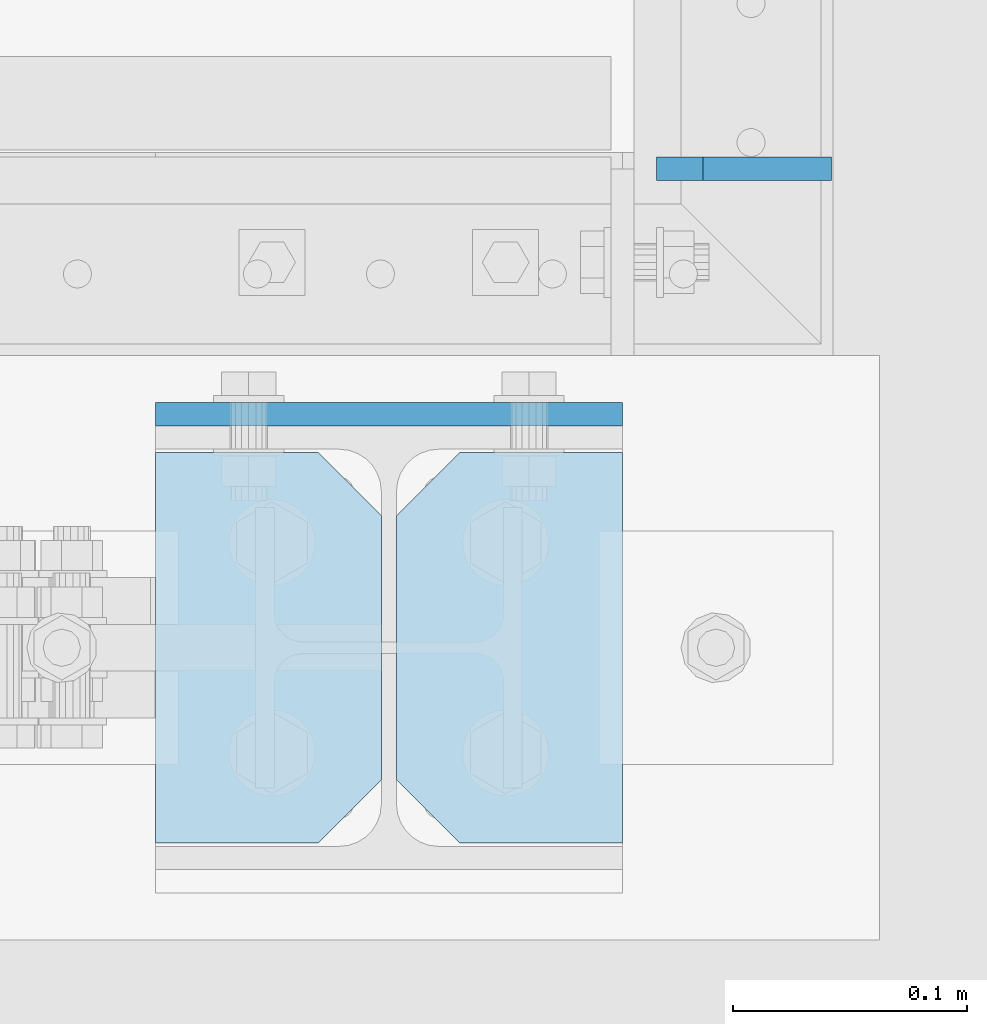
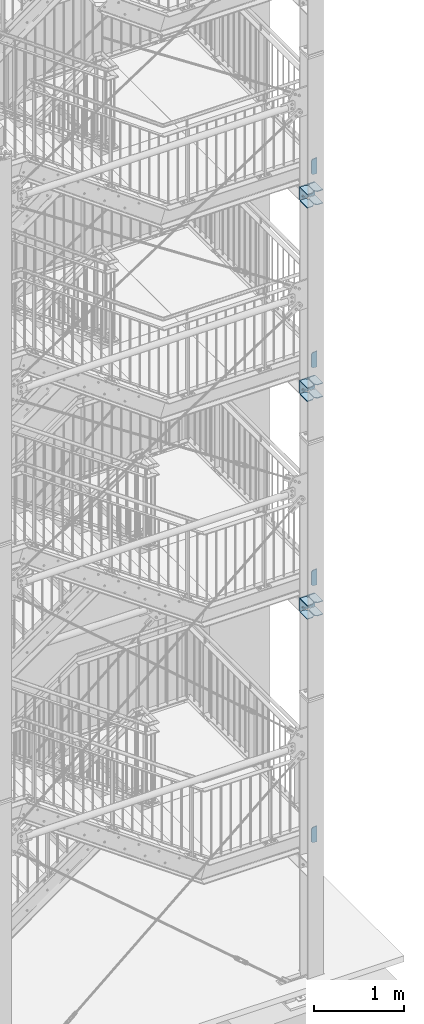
# One storey, part 202 of 831: 19 plates, 56 openings.
"""IFC2X3 building model written with IfcOpenShell, lengths in millimetres."""

from ifc_helpers import new_model, entity, si_unit, converted_unit, frame, origin, origin_with_axes, origin_2d_with_axis, place, context, project, spatial, polyline, circle, outline, extrude, material, layer, layer_set, element, save


model = new_model("IFC2X3")

# Units and contexts
model_context = context("Model", 3, precision=1e-09, world=origin_with_axes())
ifc_project = project(units=[si_unit("LENGTHUNIT", "METRE", prefix="MILLI"), si_unit("AREAUNIT", "SQUARE_METRE"), si_unit("VOLUMEUNIT", "CUBIC_METRE"), converted_unit("PLANEANGLEUNIT", "DEGREE", entity("IfcPlaneAngleMeasure", 0.01745329), si_unit("PLANEANGLEUNIT", "RADIAN"), dimensions=[0, 0, 0, 0, 0, 0, 0])], contexts=[model_context])

# Site, building, storey
site_placement = place(None, origin_with_axes())
site = spatial("IfcSite", under=ifc_project, at=site_placement, Name="Site", CompositionType="ELEMENT")
building_placement = place(site_placement, origin_with_axes())
building = spatial("IfcBuilding", under=site, at=building_placement, Name="Struktur 1", CompositionType="ELEMENT")
storey_placement = place(building_placement, origin_with_axes())
storey = spatial("IfcBuildingStorey", under=building, at=storey_placement, Name="Default Storey", CompositionType="ELEMENT", Elevation=0.0)

# Plate, openings
ifc_material = material(Name="S235JR")
ifc_layer = layer(ifc_material, 10.0)
ifc_layer_set = layer_set([ifc_layer], Name="S235JR")
plate_1_placement = place(None, frame((8866.713402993, 4471.736971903, 10930.5000003), z_axis=(0.0, -1.0, 0.0), x_axis=(0.0, 0.0, -1.0)))
plate_1 = element("IfcPlate", 1, at=plate_1_placement, inside=storey, material=ifc_layer_set, Name="Endplate", ObjectType="Endplate", context=model_context, shape_type="SweptSolid", body=[
    extrude(outline(polyline([(-90.0, -100.0), (90.0, -100.0), (90.0, 100.0), (-90.0, 100.0), (-90.0, -100.0)])), origin_with_axes(), (0.0, 0.0, 1.0), 10.0),
])
opening_1_placement = place(plate_1_placement, frame((-67.0, -21.25, 10.5), z_axis=(0.0, 0.0, -1.0), x_axis=(1.0, 0.0, 0.0)))
element("IfcOpeningElement", 2, at=opening_1_placement, cuts=plate_1, ObjectType="Opening", context=model_context, shape_type="SweptSolid", body=[
    extrude(circle(Radius=6.001, at=origin_2d_with_axis()), origin(), (0.0, 0.0, 1.0), 11.0),
])
opening_2_placement = place(plate_1_placement, frame((67.0, -21.25, 10.5), z_axis=(0.0, 0.0, -1.0), x_axis=(1.0, 0.0, 0.0)))
element("IfcOpeningElement", 3, at=opening_2_placement, cuts=plate_1, ObjectType="Opening", context=model_context, shape_type="SweptSolid", body=[
    extrude(circle(Radius=6.001, at=origin_2d_with_axis()), origin(), (0.0, 0.0, 1.0), 11.0),
])
opening_3_placement = place(plate_1_placement, frame((67.0, 21.25, 10.5), z_axis=(0.0, 0.0, -1.0), x_axis=(1.0, 0.0, 0.0)))
element("IfcOpeningElement", 4, at=opening_3_placement, cuts=plate_1, ObjectType="Opening", context=model_context, shape_type="SweptSolid", body=[
    extrude(circle(Radius=6.001, at=origin_2d_with_axis()), origin(), (0.0, 0.0, 1.0), 11.0),
])
opening_4_placement = place(plate_1_placement, frame((-67.0, 21.25, 10.5), z_axis=(0.0, 0.0, -1.0), x_axis=(1.0, 0.0, 0.0)))
element("IfcOpeningElement", 5, at=opening_4_placement, cuts=plate_1, ObjectType="Opening", context=model_context, shape_type="SweptSolid", body=[
    extrude(circle(Radius=6.001, at=origin_2d_with_axis()), origin(), (0.0, 0.0, 1.0), 11.0),
])
opening_5_placement = place(plate_1_placement, frame((-45.0, 60.0, 10.5), z_axis=(0.0, 0.0, -1.0), x_axis=(0.0, 1.0, 0.0)))
element("IfcOpeningElement", 6, at=opening_5_placement, cuts=plate_1, ObjectType="Opening", context=model_context, shape_type="SweptSolid", body=[
    extrude(circle(Radius=9.001, at=origin_2d_with_axis()), origin(), (0.0, 0.0, 1.0), 11.0),
])
opening_6_placement = place(plate_1_placement, frame((45.0, -60.0, 10.5), z_axis=(0.0, 0.0, -1.0), x_axis=(0.0, -1.0, 0.0)))
element("IfcOpeningElement", 7, at=opening_6_placement, cuts=plate_1, ObjectType="Opening", context=model_context, shape_type="SweptSolid", body=[
    extrude(circle(Radius=9.001, at=origin_2d_with_axis()), origin(), (0.0, 0.0, 1.0), 11.0),
])
opening_7_placement = place(plate_1_placement, frame((45.0, 60.0, 10.5), z_axis=(0.0, 0.0, -1.0), x_axis=(0.0, 1.0, 0.0)))
element("IfcOpeningElement", 8, at=opening_7_placement, cuts=plate_1, ObjectType="Opening", context=model_context, shape_type="SweptSolid", body=[
    extrude(circle(Radius=9.001, at=origin_2d_with_axis()), origin(), (0.0, 0.0, 1.0), 11.0),
])
opening_8_placement = place(plate_1_placement, frame((-45.0, -60.0, 10.5), z_axis=(0.0, 0.0, -1.0), x_axis=(0.0, -1.0, 0.0)))
element("IfcOpeningElement", 9, at=opening_8_placement, cuts=plate_1, ObjectType="Opening", context=model_context, shape_type="SweptSolid", body=[
    extrude(circle(Radius=9.001, at=origin_2d_with_axis()), origin(), (0.0, 0.0, 1.0), 11.0),
])

plate_2_placement = place(None, frame((8863.463402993, 4450.236971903, 11015.5000003), z_axis=(0.0, 0.0, 1.0), x_axis=(-1.0, 0.0, 0.0)))
plate_2 = element("IfcPlate", 10, at=plate_2_placement, inside=storey, material=ifc_layer_set, Name="Stiffener#1", ObjectType="Stiffener#1", context=model_context, shape_type="SweptSolid", body=[
    extrude(outline(polyline([(0.0, 0.0), (96.75, 0.0), (96.75, 167.0), (0.0, 167.0), (0.0, 0.0)])), origin_with_axes(), (0.0, 0.0, 1.0), 10.0),
])
opening_9_placement = place(plate_2_placement, frame((0.0, 0.0, -0.01), z_axis=(0.0, 0.0, 1.0), x_axis=(1.0, 0.0, 0.0)))
element("IfcOpeningElement", 11, at=opening_9_placement, cuts=plate_2, ObjectType="Opening", context=model_context, shape_type="SweptSolid", body=[
    extrude(outline(polyline([(0.0, 167.0), (0.0, 140.0), (27.0, 167.0), (0.0, 167.0)])), origin(), (0.0, 0.0, 1.0), 10.02),
])
opening_10_placement = place(plate_2_placement, frame((0.0, 0.0, -0.01), z_axis=(0.0, 0.0, 1.0), x_axis=(1.0, 0.0, 0.0)))
element("IfcOpeningElement", 12, at=opening_10_placement, cuts=plate_2, ObjectType="Opening", context=model_context, shape_type="SweptSolid", body=[
    extrude(outline(polyline([(0.0, 0.0), (27.0, 0.0), (0.0, 27.0), (0.0, 0.0)])), origin(), (0.0, 0.0, 1.0), 10.02),
])

plate_3_placement = place(None, frame((8966.713402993, 4450.236971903, 11015.5000003), z_axis=(0.0, 0.0, 1.0), x_axis=(-1.0, 0.0, 0.0)))
plate_3 = element("IfcPlate", 13, at=plate_3_placement, inside=storey, material=ifc_layer_set, Name="Stiffener#2", ObjectType="Stiffener#2", context=model_context, shape_type="SweptSolid", body=[
    extrude(outline(polyline([(0.0, 0.0), (96.75, 0.0), (96.75, 167.0), (0.0, 167.0), (0.0, 0.0)])), origin_with_axes(), (0.0, 0.0, 1.0), 10.0),
])
opening_11_placement = place(plate_3_placement, frame((0.0, 0.0, -0.01), z_axis=(0.0, 0.0, 1.0), x_axis=(1.0, 0.0, 0.0)))
element("IfcOpeningElement", 14, at=opening_11_placement, cuts=plate_3, ObjectType="Opening", context=model_context, shape_type="SweptSolid", body=[
    extrude(outline(polyline([(96.75, 167.0), (69.75, 167.0), (96.75, 140.0), (96.75, 167.0)])), origin(), (0.0, 0.0, 1.0), 10.02),
])
opening_12_placement = place(plate_3_placement, frame((0.0, 0.0, -0.01), z_axis=(0.0, 0.0, 1.0), x_axis=(1.0, 0.0, 0.0)))
element("IfcOpeningElement", 15, at=opening_12_placement, cuts=plate_3, ObjectType="Opening", context=model_context, shape_type="SweptSolid", body=[
    extrude(outline(polyline([(96.75, 0.0), (96.75, 27.0), (69.75, 0.0), (96.75, 0.0)])), origin(), (0.0, 0.0, 1.0), 10.02),
])

plate_4_placement = place(None, frame((8766.713402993, 4450.236971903, 10845.5000003), z_axis=(0.0, 0.0, -1.0), x_axis=(1.0, 0.0, 0.0)))
plate_4 = element("IfcPlate", 16, at=plate_4_placement, inside=storey, material=ifc_layer_set, Name="Stiffener#3", ObjectType="Stiffener#3", context=model_context, shape_type="SweptSolid", body=[
    extrude(outline(polyline([(0.0, 0.0), (96.75, 0.0), (96.75, 167.0), (0.0, 167.0), (0.0, 0.0)])), origin_with_axes(), (0.0, 0.0, 1.0), 10.0),
])
opening_13_placement = place(plate_4_placement, frame((0.0, 0.0, -0.01), z_axis=(0.0, 0.0, 1.0), x_axis=(1.0, 0.0, 0.0)))
element("IfcOpeningElement", 17, at=opening_13_placement, cuts=plate_4, ObjectType="Opening", context=model_context, shape_type="SweptSolid", body=[
    extrude(outline(polyline([(96.75, 167.0), (69.75, 167.0), (96.75, 140.0), (96.75, 167.0)])), origin(), (0.0, 0.0, 1.0), 10.02),
])
opening_14_placement = place(plate_4_placement, frame((0.0, 0.0, -0.01), z_axis=(0.0, 0.0, 1.0), x_axis=(1.0, 0.0, 0.0)))
element("IfcOpeningElement", 18, at=opening_14_placement, cuts=plate_4, ObjectType="Opening", context=model_context, shape_type="SweptSolid", body=[
    extrude(outline(polyline([(96.75, 0.0), (96.75, 27.0), (69.75, 0.0), (96.75, 0.0)])), origin(), (0.0, 0.0, 1.0), 10.02),
])

plate_5_placement = place(None, frame((8869.963402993, 4450.236971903, 10845.5000003), z_axis=(0.0, 0.0, -1.0), x_axis=(1.0, 0.0, 0.0)))
plate_5 = element("IfcPlate", 19, at=plate_5_placement, inside=storey, material=ifc_layer_set, Name="Stiffener#4", ObjectType="Stiffener#4", context=model_context, shape_type="SweptSolid", body=[
    extrude(outline(polyline([(0.0, 0.0), (96.75, 0.0), (96.75, 167.0), (0.0, 167.0), (0.0, 0.0)])), origin_with_axes(), (0.0, 0.0, 1.0), 10.0),
])
opening_15_placement = place(plate_5_placement, frame((0.0, 0.0, -0.01), z_axis=(0.0, 0.0, 1.0), x_axis=(1.0, 0.0, 0.0)))
element("IfcOpeningElement", 20, at=opening_15_placement, cuts=plate_5, ObjectType="Opening", context=model_context, shape_type="SweptSolid", body=[
    extrude(outline(polyline([(0.0, 167.0), (0.0, 140.0), (27.0, 167.0), (0.0, 167.0)])), origin(), (0.0, 0.0, 1.0), 10.02),
])
opening_16_placement = place(plate_5_placement, frame((0.0, 0.0, -0.01), z_axis=(0.0, 0.0, 1.0), x_axis=(1.0, 0.0, 0.0)))
element("IfcOpeningElement", 21, at=opening_16_placement, cuts=plate_5, ObjectType="Opening", context=model_context, shape_type="SweptSolid", body=[
    extrude(outline(polyline([(0.0, 0.0), (27.0, 0.0), (0.0, 27.0), (0.0, 0.0)])), origin(), (0.0, 0.0, 1.0), 10.02),
])

plate_6_placement = place(None, frame((8981.213402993, 4566.736971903, 11248.355162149), z_axis=(0.0, 1.0, 0.0), x_axis=(0.996815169, 0.0, 0.079746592)))
plate_6 = element("IfcPlate", 22, at=plate_6_placement, inside=storey, material=ifc_layer_set, Name="Stiffener#1", ObjectType="Stiffener#1", context=model_context, shape_type="SweptSolid", body=[
    extrude(outline(polyline([(0.0, 0.0), (75.239625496, 0.0), (57.877952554, 217.017159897), (-16.404697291, 205.05517107), (0.0, 0.0)])), origin_with_axes(), (0.0, 0.0, 1.0), 10.0),
])
opening_17_placement = place(plate_6_placement, frame((0.0, 0.0, -0.01), z_axis=(0.0, 0.0, 1.0), x_axis=(1.0, 0.0, 0.0)))
element("IfcOpeningElement", 23, at=opening_17_placement, cuts=plate_6, ObjectType="Opening", context=model_context, shape_type="SweptSolid", body=[
    extrude(outline(polyline([(-16.404697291, 205.05517107), (-14.809765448, 185.118867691), (3.34092195, 208.23487558), (-16.404697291, 205.05517107)])), origin(), (0.0, 0.0, 1.0), 10.02),
])
opening_18_placement = place(plate_6_placement, frame((0.0, 0.0, -0.01), z_axis=(0.0, 0.0, 1.0), x_axis=(1.0, 0.0, 0.0)))
element("IfcOpeningElement", 24, at=opening_18_placement, cuts=plate_6, ObjectType="Opening", context=model_context, shape_type="SweptSolid", body=[
    extrude(outline(polyline([(0.0, 0.0), (20.0, 0.0), (-1.594931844, 19.936303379), (0.0, 0.0)])), origin(), (0.0, 0.0, 1.0), 10.02),
])

plate_7_placement = place(None, frame((8866.713402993, 4471.736971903, 8301.0), z_axis=(0.0, -1.0, 0.0), x_axis=(0.0, 0.0, -1.0)))
plate_7 = element("IfcPlate", 25, at=plate_7_placement, inside=storey, material=ifc_layer_set, Name="Endplate", ObjectType="Endplate", context=model_context, shape_type="SweptSolid", body=[
    extrude(outline(polyline([(-90.0, -100.0), (90.0, -100.0), (90.0, 100.0), (-90.0, 100.0), (-90.0, -100.0)])), origin_with_axes(), (0.0, 0.0, 1.0), 10.0),
])
opening_19_placement = place(plate_7_placement, frame((-67.0, -21.25, 10.5), z_axis=(0.0, 0.0, -1.0), x_axis=(1.0, 0.0, 0.0)))
element("IfcOpeningElement", 26, at=opening_19_placement, cuts=plate_7, ObjectType="Opening", context=model_context, shape_type="SweptSolid", body=[
    extrude(circle(Radius=6.001, at=origin_2d_with_axis()), origin(), (0.0, 0.0, 1.0), 11.0),
])
opening_20_placement = place(plate_7_placement, frame((67.0, -21.25, 10.5), z_axis=(0.0, 0.0, -1.0), x_axis=(1.0, 0.0, 0.0)))
element("IfcOpeningElement", 27, at=opening_20_placement, cuts=plate_7, ObjectType="Opening", context=model_context, shape_type="SweptSolid", body=[
    extrude(circle(Radius=6.001, at=origin_2d_with_axis()), origin(), (0.0, 0.0, 1.0), 11.0),
])
opening_21_placement = place(plate_7_placement, frame((67.0, 21.25, 10.5), z_axis=(0.0, 0.0, -1.0), x_axis=(1.0, 0.0, 0.0)))
element("IfcOpeningElement", 28, at=opening_21_placement, cuts=plate_7, ObjectType="Opening", context=model_context, shape_type="SweptSolid", body=[
    extrude(circle(Radius=6.001, at=origin_2d_with_axis()), origin(), (0.0, 0.0, 1.0), 11.0),
])
opening_22_placement = place(plate_7_placement, frame((-67.0, 21.25, 10.5), z_axis=(0.0, 0.0, -1.0), x_axis=(1.0, 0.0, 0.0)))
element("IfcOpeningElement", 29, at=opening_22_placement, cuts=plate_7, ObjectType="Opening", context=model_context, shape_type="SweptSolid", body=[
    extrude(circle(Radius=6.001, at=origin_2d_with_axis()), origin(), (0.0, 0.0, 1.0), 11.0),
])
opening_23_placement = place(plate_7_placement, frame((-45.0, 60.0, 10.5), z_axis=(0.0, 0.0, -1.0), x_axis=(0.0, 1.0, 0.0)))
element("IfcOpeningElement", 30, at=opening_23_placement, cuts=plate_7, ObjectType="Opening", context=model_context, shape_type="SweptSolid", body=[
    extrude(circle(Radius=9.001, at=origin_2d_with_axis()), origin(), (0.0, 0.0, 1.0), 11.0),
])
opening_24_placement = place(plate_7_placement, frame((45.0, -60.0, 10.5), z_axis=(0.0, 0.0, -1.0), x_axis=(0.0, -1.0, 0.0)))
element("IfcOpeningElement", 31, at=opening_24_placement, cuts=plate_7, ObjectType="Opening", context=model_context, shape_type="SweptSolid", body=[
    extrude(circle(Radius=9.001, at=origin_2d_with_axis()), origin(), (0.0, 0.0, 1.0), 11.0),
])
opening_25_placement = place(plate_7_placement, frame((-45.0, -60.0, 10.5), z_axis=(0.0, 0.0, -1.0), x_axis=(0.0, -1.0, 0.0)))
element("IfcOpeningElement", 32, at=opening_25_placement, cuts=plate_7, ObjectType="Opening", context=model_context, shape_type="SweptSolid", body=[
    extrude(circle(Radius=9.001, at=origin_2d_with_axis()), origin(), (0.0, 0.0, 1.0), 11.0),
])
opening_26_placement = place(plate_7_placement, frame((45.0, 60.0, 10.5), z_axis=(0.0, 0.0, -1.0), x_axis=(0.0, 1.0, 0.0)))
element("IfcOpeningElement", 33, at=opening_26_placement, cuts=plate_7, ObjectType="Opening", context=model_context, shape_type="SweptSolid", body=[
    extrude(circle(Radius=9.001, at=origin_2d_with_axis()), origin(), (0.0, 0.0, 1.0), 11.0),
])

plate_8_placement = place(None, frame((8863.463402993, 4450.236971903, 8386.0), z_axis=(0.0, 0.0, 1.0), x_axis=(-1.0, 0.0, 0.0)))
plate_8 = element("IfcPlate", 34, at=plate_8_placement, inside=storey, material=ifc_layer_set, Name="Stiffener#1", ObjectType="Stiffener#1", context=model_context, shape_type="SweptSolid", body=[
    extrude(outline(polyline([(0.0, 0.0), (96.75, 0.0), (96.75, 167.0), (0.0, 167.0), (0.0, 0.0)])), origin_with_axes(), (0.0, 0.0, 1.0), 10.0),
])
opening_27_placement = place(plate_8_placement, frame((0.0, 0.0, -0.01), z_axis=(0.0, 0.0, 1.0), x_axis=(1.0, 0.0, 0.0)))
element("IfcOpeningElement", 35, at=opening_27_placement, cuts=plate_8, ObjectType="Opening", context=model_context, shape_type="SweptSolid", body=[
    extrude(outline(polyline([(0.0, 167.0), (0.0, 140.0), (27.0, 167.0), (0.0, 167.0)])), origin(), (0.0, 0.0, 1.0), 10.02),
])
opening_28_placement = place(plate_8_placement, frame((0.0, 0.0, -0.01), z_axis=(0.0, 0.0, 1.0), x_axis=(1.0, 0.0, 0.0)))
element("IfcOpeningElement", 36, at=opening_28_placement, cuts=plate_8, ObjectType="Opening", context=model_context, shape_type="SweptSolid", body=[
    extrude(outline(polyline([(0.0, 0.0), (27.0, 0.0), (0.0, 27.0), (0.0, 0.0)])), origin(), (0.0, 0.0, 1.0), 10.02),
])

plate_9_placement = place(None, frame((8966.713402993, 4450.236971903, 8386.0), z_axis=(0.0, 0.0, 1.0), x_axis=(-1.0, 0.0, 0.0)))
plate_9 = element("IfcPlate", 37, at=plate_9_placement, inside=storey, material=ifc_layer_set, Name="Stiffener#2", ObjectType="Stiffener#2", context=model_context, shape_type="SweptSolid", body=[
    extrude(outline(polyline([(0.0, 0.0), (96.75, 0.0), (96.75, 167.0), (0.0, 167.0), (0.0, 0.0)])), origin_with_axes(), (0.0, 0.0, 1.0), 10.0),
])
opening_29_placement = place(plate_9_placement, frame((0.0, 0.0, -0.01), z_axis=(0.0, 0.0, 1.0), x_axis=(1.0, 0.0, 0.0)))
element("IfcOpeningElement", 38, at=opening_29_placement, cuts=plate_9, ObjectType="Opening", context=model_context, shape_type="SweptSolid", body=[
    extrude(outline(polyline([(96.75, 167.0), (69.75, 167.0), (96.75, 140.0), (96.75, 167.0)])), origin(), (0.0, 0.0, 1.0), 10.02),
])
opening_30_placement = place(plate_9_placement, frame((0.0, 0.0, -0.01), z_axis=(0.0, 0.0, 1.0), x_axis=(1.0, 0.0, 0.0)))
element("IfcOpeningElement", 39, at=opening_30_placement, cuts=plate_9, ObjectType="Opening", context=model_context, shape_type="SweptSolid", body=[
    extrude(outline(polyline([(96.75, 0.0), (96.75, 27.0), (69.75, 0.0), (96.75, 0.0)])), origin(), (0.0, 0.0, 1.0), 10.02),
])

plate_10_placement = place(None, frame((8766.713402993, 4450.236971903, 8216.0), z_axis=(0.0, 0.0, -1.0), x_axis=(1.0, 0.0, 0.0)))
plate_10 = element("IfcPlate", 40, at=plate_10_placement, inside=storey, material=ifc_layer_set, Name="Stiffener#3", ObjectType="Stiffener#3", context=model_context, shape_type="SweptSolid", body=[
    extrude(outline(polyline([(0.0, 0.0), (96.75, 0.0), (96.75, 167.0), (0.0, 167.0), (0.0, 0.0)])), origin_with_axes(), (0.0, 0.0, 1.0), 10.0),
])
opening_31_placement = place(plate_10_placement, frame((0.0, 0.0, -0.01), z_axis=(0.0, 0.0, 1.0), x_axis=(1.0, 0.0, 0.0)))
element("IfcOpeningElement", 41, at=opening_31_placement, cuts=plate_10, ObjectType="Opening", context=model_context, shape_type="SweptSolid", body=[
    extrude(outline(polyline([(96.75, 167.0), (69.75, 167.0), (96.75, 140.0), (96.75, 167.0)])), origin(), (0.0, 0.0, 1.0), 10.02),
])
opening_32_placement = place(plate_10_placement, frame((0.0, 0.0, -0.01), z_axis=(0.0, 0.0, 1.0), x_axis=(1.0, 0.0, 0.0)))
element("IfcOpeningElement", 42, at=opening_32_placement, cuts=plate_10, ObjectType="Opening", context=model_context, shape_type="SweptSolid", body=[
    extrude(outline(polyline([(96.75, 0.0), (96.75, 27.0), (69.75, 0.0), (96.75, 0.0)])), origin(), (0.0, 0.0, 1.0), 10.02),
])

plate_11_placement = place(None, frame((8869.963402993, 4450.236971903, 8216.0), z_axis=(0.0, 0.0, -1.0), x_axis=(1.0, 0.0, 0.0)))
plate_11 = element("IfcPlate", 43, at=plate_11_placement, inside=storey, material=ifc_layer_set, Name="Stiffener#4", ObjectType="Stiffener#4", context=model_context, shape_type="SweptSolid", body=[
    extrude(outline(polyline([(0.0, 0.0), (96.75, 0.0), (96.75, 167.0), (0.0, 167.0), (0.0, 0.0)])), origin_with_axes(), (0.0, 0.0, 1.0), 10.0),
])
opening_33_placement = place(plate_11_placement, frame((0.0, 0.0, -0.01), z_axis=(0.0, 0.0, 1.0), x_axis=(1.0, 0.0, 0.0)))
element("IfcOpeningElement", 44, at=opening_33_placement, cuts=plate_11, ObjectType="Opening", context=model_context, shape_type="SweptSolid", body=[
    extrude(outline(polyline([(0.0, 167.0), (0.0, 140.0), (27.0, 167.0), (0.0, 167.0)])), origin(), (0.0, 0.0, 1.0), 10.02),
])
opening_34_placement = place(plate_11_placement, frame((0.0, 0.0, -0.01), z_axis=(0.0, 0.0, 1.0), x_axis=(1.0, 0.0, 0.0)))
element("IfcOpeningElement", 45, at=opening_34_placement, cuts=plate_11, ObjectType="Opening", context=model_context, shape_type="SweptSolid", body=[
    extrude(outline(polyline([(0.0, 0.0), (27.0, 0.0), (0.0, 27.0), (0.0, 0.0)])), origin(), (0.0, 0.0, 1.0), 10.02),
])

plate_12_placement = place(None, frame((8981.213402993, 4566.736971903, 8618.855161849), z_axis=(0.0, 1.0, 0.0), x_axis=(0.996815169, 0.0, 0.079746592)))
plate_12 = element("IfcPlate", 46, at=plate_12_placement, inside=storey, material=ifc_layer_set, Name="Stiffener#1", ObjectType="Stiffener#1", context=model_context, shape_type="SweptSolid", body=[
    extrude(outline(polyline([(0.0, 0.0), (75.239625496, 0.0), (57.877952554, 217.017159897), (-16.404697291, 205.05517107), (0.0, 0.0)])), origin_with_axes(), (0.0, 0.0, 1.0), 10.0),
])
opening_35_placement = place(plate_12_placement, frame((0.0, 0.0, -0.01), z_axis=(0.0, 0.0, 1.0), x_axis=(1.0, 0.0, 0.0)))
element("IfcOpeningElement", 47, at=opening_35_placement, cuts=plate_12, ObjectType="Opening", context=model_context, shape_type="SweptSolid", body=[
    extrude(outline(polyline([(-16.404697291, 205.05517107), (-14.809765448, 185.118867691), (3.34092195, 208.23487558), (-16.404697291, 205.05517107)])), origin(), (0.0, 0.0, 1.0), 10.02),
])
opening_36_placement = place(plate_12_placement, frame((0.0, 0.0, -0.01), z_axis=(0.0, 0.0, 1.0), x_axis=(1.0, 0.0, 0.0)))
element("IfcOpeningElement", 48, at=opening_36_placement, cuts=plate_12, ObjectType="Opening", context=model_context, shape_type="SweptSolid", body=[
    extrude(outline(polyline([(0.0, 0.0), (20.0, 0.0), (-1.594931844, 19.936303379), (0.0, 0.0)])), origin(), (0.0, 0.0, 1.0), 10.02),
])

plate_13_placement = place(None, frame((8981.213402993, 4566.736971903, 5657.749898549), z_axis=(0.0, 1.0, 0.0), x_axis=(0.996815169, 0.0, 0.079746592)))
plate_13 = element("IfcPlate", 49, at=plate_13_placement, inside=storey, material=ifc_layer_set, Name="Stiffener#1", ObjectType="Stiffener#1", context=model_context, shape_type="SweptSolid", body=[
    extrude(outline(polyline([(0.0, 0.0), (75.239625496, 0.0), (57.877952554, 217.017159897), (-16.404697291, 205.05517107), (0.0, 0.0)])), origin_with_axes(), (0.0, 0.0, 1.0), 10.0),
])
opening_37_placement = place(plate_13_placement, frame((0.0, 0.0, -0.01), z_axis=(0.0, 0.0, 1.0), x_axis=(1.0, 0.0, 0.0)))
element("IfcOpeningElement", 50, at=opening_37_placement, cuts=plate_13, ObjectType="Opening", context=model_context, shape_type="SweptSolid", body=[
    extrude(outline(polyline([(-16.404697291, 205.05517107), (-14.809765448, 185.118867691), (3.34092195, 208.23487558), (-16.404697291, 205.05517107)])), origin(), (0.0, 0.0, 1.0), 10.02),
])
opening_38_placement = place(plate_13_placement, frame((0.0, 0.0, -0.01), z_axis=(0.0, 0.0, 1.0), x_axis=(1.0, 0.0, 0.0)))
element("IfcOpeningElement", 51, at=opening_38_placement, cuts=plate_13, ObjectType="Opening", context=model_context, shape_type="SweptSolid", body=[
    extrude(outline(polyline([(0.0, 0.0), (20.0, 0.0), (-1.594931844, 19.936303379), (0.0, 0.0)])), origin(), (0.0, 0.0, 1.0), 10.02),
])

plate_14_placement = place(None, frame((8866.713402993, 4471.736971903, 5339.8947367), z_axis=(0.0, -1.0, 0.0), x_axis=(0.0, 0.0, -1.0)))
plate_14 = element("IfcPlate", 52, at=plate_14_placement, inside=storey, material=ifc_layer_set, Name="Endplate", ObjectType="Endplate", context=model_context, shape_type="SweptSolid", body=[
    extrude(outline(polyline([(-90.0, -100.0), (90.0, -100.0), (90.0, 100.0), (-90.0, 100.0), (-90.0, -100.0)])), origin_with_axes(), (0.0, 0.0, 1.0), 10.0),
])
opening_39_placement = place(plate_14_placement, frame((-67.0, -21.25, 10.5), z_axis=(0.0, 0.0, -1.0), x_axis=(1.0, 0.0, 0.0)))
element("IfcOpeningElement", 53, at=opening_39_placement, cuts=plate_14, ObjectType="Opening", context=model_context, shape_type="SweptSolid", body=[
    extrude(circle(Radius=6.001, at=origin_2d_with_axis()), origin(), (0.0, 0.0, 1.0), 11.0),
])
opening_40_placement = place(plate_14_placement, frame((67.0, -21.25, 10.5), z_axis=(0.0, 0.0, -1.0), x_axis=(1.0, 0.0, 0.0)))
element("IfcOpeningElement", 54, at=opening_40_placement, cuts=plate_14, ObjectType="Opening", context=model_context, shape_type="SweptSolid", body=[
    extrude(circle(Radius=6.001, at=origin_2d_with_axis()), origin(), (0.0, 0.0, 1.0), 11.0),
])
opening_41_placement = place(plate_14_placement, frame((67.0, 21.25, 10.5), z_axis=(0.0, 0.0, -1.0), x_axis=(1.0, 0.0, 0.0)))
element("IfcOpeningElement", 55, at=opening_41_placement, cuts=plate_14, ObjectType="Opening", context=model_context, shape_type="SweptSolid", body=[
    extrude(circle(Radius=6.001, at=origin_2d_with_axis()), origin(), (0.0, 0.0, 1.0), 11.0),
])
opening_42_placement = place(plate_14_placement, frame((-67.0, 21.25, 10.5), z_axis=(0.0, 0.0, -1.0), x_axis=(1.0, 0.0, 0.0)))
element("IfcOpeningElement", 56, at=opening_42_placement, cuts=plate_14, ObjectType="Opening", context=model_context, shape_type="SweptSolid", body=[
    extrude(circle(Radius=6.001, at=origin_2d_with_axis()), origin(), (0.0, 0.0, 1.0), 11.0),
])
opening_43_placement = place(plate_14_placement, frame((-45.0, 60.0, 10.5), z_axis=(0.0, 0.0, -1.0), x_axis=(0.0, 1.0, 0.0)))
element("IfcOpeningElement", 57, at=opening_43_placement, cuts=plate_14, ObjectType="Opening", context=model_context, shape_type="SweptSolid", body=[
    extrude(circle(Radius=9.001, at=origin_2d_with_axis()), origin(), (0.0, 0.0, 1.0), 11.0),
])
opening_44_placement = place(plate_14_placement, frame((45.0, 60.0, 10.5), z_axis=(0.0, 0.0, -1.0), x_axis=(0.0, 1.0, 0.0)))
element("IfcOpeningElement", 58, at=opening_44_placement, cuts=plate_14, ObjectType="Opening", context=model_context, shape_type="SweptSolid", body=[
    extrude(circle(Radius=9.001, at=origin_2d_with_axis()), origin(), (0.0, 0.0, 1.0), 11.0),
])
opening_45_placement = place(plate_14_placement, frame((45.0, -60.0, 10.5), z_axis=(0.0, 0.0, -1.0), x_axis=(0.0, -1.0, 0.0)))
element("IfcOpeningElement", 59, at=opening_45_placement, cuts=plate_14, ObjectType="Opening", context=model_context, shape_type="SweptSolid", body=[
    extrude(circle(Radius=9.001, at=origin_2d_with_axis()), origin(), (0.0, 0.0, 1.0), 11.0),
])
opening_46_placement = place(plate_14_placement, frame((-45.0, -60.0, 10.5), z_axis=(0.0, 0.0, -1.0), x_axis=(0.0, -1.0, 0.0)))
element("IfcOpeningElement", 60, at=opening_46_placement, cuts=plate_14, ObjectType="Opening", context=model_context, shape_type="SweptSolid", body=[
    extrude(circle(Radius=9.001, at=origin_2d_with_axis()), origin(), (0.0, 0.0, 1.0), 11.0),
])

plate_15_placement = place(None, frame((8863.463402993, 4450.236971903, 5424.8947367), z_axis=(0.0, 0.0, 1.0), x_axis=(-1.0, 0.0, 0.0)))
plate_15 = element("IfcPlate", 61, at=plate_15_placement, inside=storey, material=ifc_layer_set, Name="Stiffener#1", ObjectType="Stiffener#1", context=model_context, shape_type="SweptSolid", body=[
    extrude(outline(polyline([(0.0, 0.0), (96.75, 0.0), (96.75, 167.0), (0.0, 167.0), (0.0, 0.0)])), origin_with_axes(), (0.0, 0.0, 1.0), 10.0),
])
opening_47_placement = place(plate_15_placement, frame((0.0, 0.0, -0.01), z_axis=(0.0, 0.0, 1.0), x_axis=(1.0, 0.0, 0.0)))
element("IfcOpeningElement", 62, at=opening_47_placement, cuts=plate_15, ObjectType="Opening", context=model_context, shape_type="SweptSolid", body=[
    extrude(outline(polyline([(0.0, 167.0), (0.0, 140.0), (27.0, 167.0), (0.0, 167.0)])), origin(), (0.0, 0.0, 1.0), 10.02),
])
opening_48_placement = place(plate_15_placement, frame((0.0, 0.0, -0.01), z_axis=(0.0, 0.0, 1.0), x_axis=(1.0, 0.0, 0.0)))
element("IfcOpeningElement", 63, at=opening_48_placement, cuts=plate_15, ObjectType="Opening", context=model_context, shape_type="SweptSolid", body=[
    extrude(outline(polyline([(0.0, 0.0), (27.0, 0.0), (0.0, 27.0), (0.0, 0.0)])), origin(), (0.0, 0.0, 1.0), 10.02),
])

plate_16_placement = place(None, frame((8966.713402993, 4450.236971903, 5424.8947367), z_axis=(0.0, 0.0, 1.0), x_axis=(-1.0, 0.0, 0.0)))
plate_16 = element("IfcPlate", 64, at=plate_16_placement, inside=storey, material=ifc_layer_set, Name="Stiffener#2", ObjectType="Stiffener#2", context=model_context, shape_type="SweptSolid", body=[
    extrude(outline(polyline([(0.0, 0.0), (96.75, 0.0), (96.75, 167.0), (0.0, 167.0), (0.0, 0.0)])), origin_with_axes(), (0.0, 0.0, 1.0), 10.0),
])
opening_49_placement = place(plate_16_placement, frame((0.0, 0.0, -0.01), z_axis=(0.0, 0.0, 1.0), x_axis=(1.0, 0.0, 0.0)))
element("IfcOpeningElement", 65, at=opening_49_placement, cuts=plate_16, ObjectType="Opening", context=model_context, shape_type="SweptSolid", body=[
    extrude(outline(polyline([(96.75, 167.0), (69.75, 167.0), (96.75, 140.0), (96.75, 167.0)])), origin(), (0.0, 0.0, 1.0), 10.02),
])
opening_50_placement = place(plate_16_placement, frame((0.0, 0.0, -0.01), z_axis=(0.0, 0.0, 1.0), x_axis=(1.0, 0.0, 0.0)))
element("IfcOpeningElement", 66, at=opening_50_placement, cuts=plate_16, ObjectType="Opening", context=model_context, shape_type="SweptSolid", body=[
    extrude(outline(polyline([(96.75, 0.0), (96.75, 27.0), (69.75, 0.0), (96.75, 0.0)])), origin(), (0.0, 0.0, 1.0), 10.02),
])

plate_17_placement = place(None, frame((8766.713402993, 4450.236971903, 5254.8947367), z_axis=(0.0, 0.0, -1.0), x_axis=(1.0, 0.0, 0.0)))
plate_17 = element("IfcPlate", 67, at=plate_17_placement, inside=storey, material=ifc_layer_set, Name="Stiffener#3", ObjectType="Stiffener#3", context=model_context, shape_type="SweptSolid", body=[
    extrude(outline(polyline([(0.0, 0.0), (96.75, 0.0), (96.75, 167.0), (0.0, 167.0), (0.0, 0.0)])), origin_with_axes(), (0.0, 0.0, 1.0), 10.0),
])
opening_51_placement = place(plate_17_placement, frame((0.0, 0.0, -0.01), z_axis=(0.0, 0.0, 1.0), x_axis=(1.0, 0.0, 0.0)))
element("IfcOpeningElement", 68, at=opening_51_placement, cuts=plate_17, ObjectType="Opening", context=model_context, shape_type="SweptSolid", body=[
    extrude(outline(polyline([(96.75, 167.0), (69.75, 167.0), (96.75, 140.0), (96.75, 167.0)])), origin(), (0.0, 0.0, 1.0), 10.02),
])
opening_52_placement = place(plate_17_placement, frame((0.0, 0.0, -0.01), z_axis=(0.0, 0.0, 1.0), x_axis=(1.0, 0.0, 0.0)))
element("IfcOpeningElement", 69, at=opening_52_placement, cuts=plate_17, ObjectType="Opening", context=model_context, shape_type="SweptSolid", body=[
    extrude(outline(polyline([(96.75, 0.0), (96.75, 27.0), (69.75, 0.0), (96.75, 0.0)])), origin(), (0.0, 0.0, 1.0), 10.02),
])

plate_18_placement = place(None, frame((8869.963402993, 4450.236971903, 5254.8947367), z_axis=(0.0, 0.0, -1.0), x_axis=(1.0, 0.0, 0.0)))
plate_18 = element("IfcPlate", 70, at=plate_18_placement, inside=storey, material=ifc_layer_set, Name="Stiffener#4", ObjectType="Stiffener#4", context=model_context, shape_type="SweptSolid", body=[
    extrude(outline(polyline([(0.0, 0.0), (96.75, 0.0), (96.75, 167.0), (0.0, 167.0), (0.0, 0.0)])), origin_with_axes(), (0.0, 0.0, 1.0), 10.0),
])
opening_53_placement = place(plate_18_placement, frame((0.0, 0.0, -0.01), z_axis=(0.0, 0.0, 1.0), x_axis=(1.0, 0.0, 0.0)))
element("IfcOpeningElement", 71, at=opening_53_placement, cuts=plate_18, ObjectType="Opening", context=model_context, shape_type="SweptSolid", body=[
    extrude(outline(polyline([(0.0, 167.0), (0.0, 140.0), (27.0, 167.0), (0.0, 167.0)])), origin(), (0.0, 0.0, 1.0), 10.02),
])
opening_54_placement = place(plate_18_placement, frame((0.0, 0.0, -0.01), z_axis=(0.0, 0.0, 1.0), x_axis=(1.0, 0.0, 0.0)))
element("IfcOpeningElement", 72, at=opening_54_placement, cuts=plate_18, ObjectType="Opening", context=model_context, shape_type="SweptSolid", body=[
    extrude(outline(polyline([(0.0, 0.0), (27.0, 0.0), (0.0, 27.0), (0.0, 0.0)])), origin(), (0.0, 0.0, 1.0), 10.02),
])

plate_19_placement = place(None, frame((8981.213402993, 4566.736971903, 2163.907793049), z_axis=(0.0, 1.0, 0.0), x_axis=(0.996815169, 0.0, 0.079746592)))
plate_19 = element("IfcPlate", 73, at=plate_19_placement, inside=storey, material=ifc_layer_set, Name="Stiffener#1", ObjectType="Stiffener#1", context=model_context, shape_type="SweptSolid", body=[
    extrude(outline(polyline([(0.0, 0.0), (75.239625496, 0.0), (57.877952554, 217.017159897), (-16.404697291, 205.05517107), (0.0, 0.0)])), origin_with_axes(), (0.0, 0.0, 1.0), 10.0),
])
opening_55_placement = place(plate_19_placement, frame((0.0, 0.0, -0.01), z_axis=(0.0, 0.0, 1.0), x_axis=(1.0, 0.0, 0.0)))
element("IfcOpeningElement", 74, at=opening_55_placement, cuts=plate_19, ObjectType="Opening", context=model_context, shape_type="SweptSolid", body=[
    extrude(outline(polyline([(-16.404697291, 205.05517107), (-14.809765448, 185.118867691), (3.34092195, 208.23487558), (-16.404697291, 205.05517107)])), origin(), (0.0, 0.0, 1.0), 10.02),
])
opening_56_placement = place(plate_19_placement, frame((0.0, 0.0, -0.01), z_axis=(0.0, 0.0, 1.0), x_axis=(1.0, 0.0, 0.0)))
element("IfcOpeningElement", 75, at=opening_56_placement, cuts=plate_19, ObjectType="Opening", context=model_context, shape_type="SweptSolid", body=[
    extrude(outline(polyline([(0.0, 0.0), (20.0, 0.0), (-1.594931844, 19.936303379), (0.0, 0.0)])), origin(), (0.0, 0.0, 1.0), 10.02),
])

save(model, "model.ifc")
